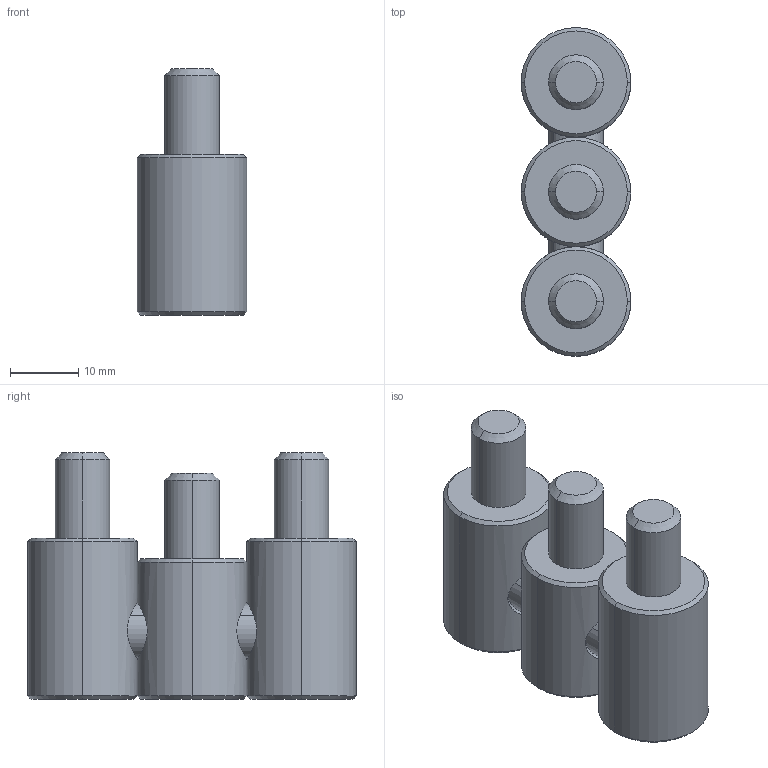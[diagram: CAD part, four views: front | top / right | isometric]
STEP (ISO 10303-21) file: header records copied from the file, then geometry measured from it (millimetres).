
FILE_DESCRIPTION (( 'STEP AP203' ), '1' );
FILE_NAME ('CL206S4B002.STEP', '2016-07-18T04:22:34', ( 'SkyUser' ), ( 'ChinaSKY' ), 'SwSTEP 2.0', 'SolidWorks 2014', '' );
FILE_SCHEMA (( 'CONFIG_CONTROL_DESIGN' ));
Length unit declared in the file: millimetre
Products named in the file (4): 8SJ.CL206-12.0090; CL206S4B002; 8SJ.CL206-12.0460; 8SJ.CL206-12.0450
Assembly tree (4 placements, depth 2):
  CL206S4B002
    8SJ.CL206-12.0450  x2
    8SJ.CL206-12.0460
    8SJ.CL206-12.0090
Bounding box: 16 x 48 x 36 mm (x, y, z)
Volume: 15230.8 mm3; surface area: 7160.5 mm2
Topology: 4 solids, 4 shells, 65 faces, 132 edges, 76 vertices
Faces by surface type: cone 26, cylinder 20, plane 11, bspline 8
Entity records: 7587 total; most frequent: CARTESIAN_POINT 6222, DIRECTION 202, ORIENTED_EDGE 182, EDGE_CURVE 91, AXIS2_PLACEMENT_3D 85, VERTEX_POINT 54, EDGE_LOOP 51, FACE_OUTER_BOUND 46
